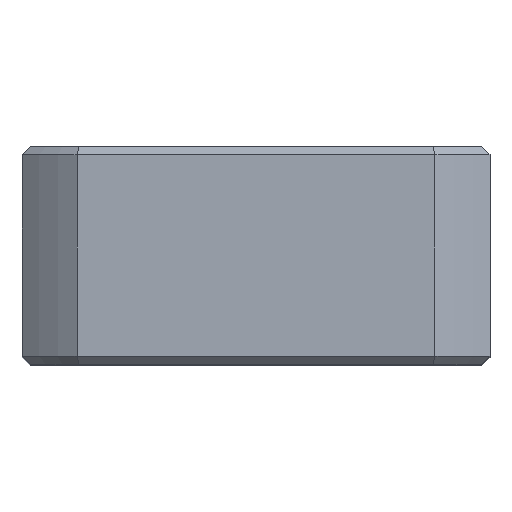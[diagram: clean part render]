
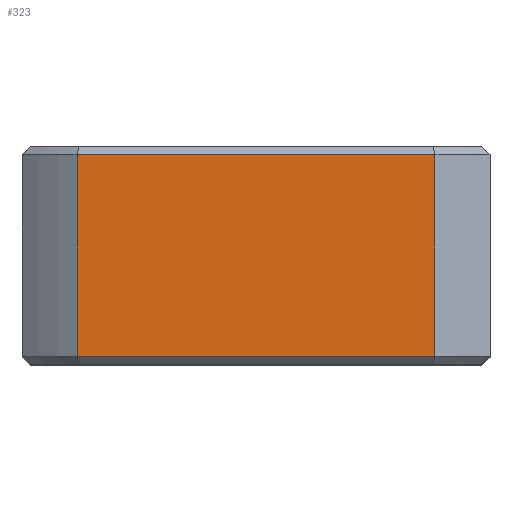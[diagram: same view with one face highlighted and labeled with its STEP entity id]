
A CAD part, top view. The second image highlights one B-rep face of the part: STEP entity #323.
In plain terms, the highlighted planar face has unit normal (0, 0, 1).
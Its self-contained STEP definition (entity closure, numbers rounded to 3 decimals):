
#145 = VERTEX_POINT ( 'NONE', #880 ) ;
#155 = EDGE_CURVE ( 'NONE', #156, #157, #863, .T. ) ;
#156 = VERTEX_POINT ( 'NONE', #859 ) ;
#157 = VERTEX_POINT ( 'NONE', #858 ) ;
#200 = EDGE_CURVE ( 'NONE', #201, #145, #919, .T. ) ;
#201 = VERTEX_POINT ( 'NONE', #915 ) ;
#302 = ORIENTED_EDGE ( 'NONE', *, *, #200, .T. ) ;
#303 = ORIENTED_EDGE ( 'NONE', *, *, #304, .T. ) ;
#304 = EDGE_CURVE ( 'NONE', #145, #156, #1126, .T. ) ;
#305 = ORIENTED_EDGE ( 'NONE', *, *, #155, .T. ) ;
#306 = ORIENTED_EDGE ( 'NONE', *, *, #307, .T. ) ;
#307 = EDGE_CURVE ( 'NONE', #157, #201, #1122, .T. ) ;
#323 = ADVANCED_FACE ( 'NONE', ( #1165 ), #1161, .T. ) ;
#324 = EDGE_LOOP ( 'NONE', ( #302, #303, #305, #306 ) ) ;
#858 = CARTESIAN_POINT ( 'NONE',  ( -22.181, -12.5, 38. ) ) ;
#859 = CARTESIAN_POINT ( 'NONE',  ( -22.181, 12.5, 38. ) ) ;
#860 = DIRECTION ( 'NONE',  ( 0., -1., 0. ) ) ;
#861 = VECTOR ( 'NONE', #860, 1000. ) ;
#862 = CARTESIAN_POINT ( 'NONE',  ( -22.181, 13.5, 38. ) ) ;
#863 = LINE ( 'NONE', #862, #861 ) ;
#880 = CARTESIAN_POINT ( 'NONE',  ( 22.181, 12.5, 38. ) ) ;
#915 = CARTESIAN_POINT ( 'NONE',  ( 22.181, -12.5, 38. ) ) ;
#916 = DIRECTION ( 'NONE',  ( 0., 1., 0. ) ) ;
#917 = VECTOR ( 'NONE', #916, 1000. ) ;
#918 = CARTESIAN_POINT ( 'NONE',  ( 22.181, 13.5, 38. ) ) ;
#919 = LINE ( 'NONE', #918, #917 ) ;
#1119 = DIRECTION ( 'NONE',  ( 1., 0., 0. ) ) ;
#1120 = VECTOR ( 'NONE', #1119, 1000. ) ;
#1121 = CARTESIAN_POINT ( 'NONE',  ( 22.181, -12.5, 38. ) ) ;
#1122 = LINE ( 'NONE', #1121, #1120 ) ;
#1123 = DIRECTION ( 'NONE',  ( -1., 0., 0. ) ) ;
#1124 = VECTOR ( 'NONE', #1123, 1000. ) ;
#1125 = CARTESIAN_POINT ( 'NONE',  ( -29., 12.5, 38. ) ) ;
#1126 = LINE ( 'NONE', #1125, #1124 ) ;
#1157 = DIRECTION ( 'NONE',  ( 1., 0., 0. ) ) ;
#1158 = DIRECTION ( 'NONE',  ( 0., 0., 1. ) ) ;
#1159 = CARTESIAN_POINT ( 'NONE',  ( -29., -16.5, 38. ) ) ;
#1160 = AXIS2_PLACEMENT_3D ( 'NONE', #1159, #1158, #1157 ) ;
#1161 = PLANE ( 'NONE',  #1160 ) ;
#1165 = FACE_OUTER_BOUND ( 'NONE', #324, .T. ) ;
